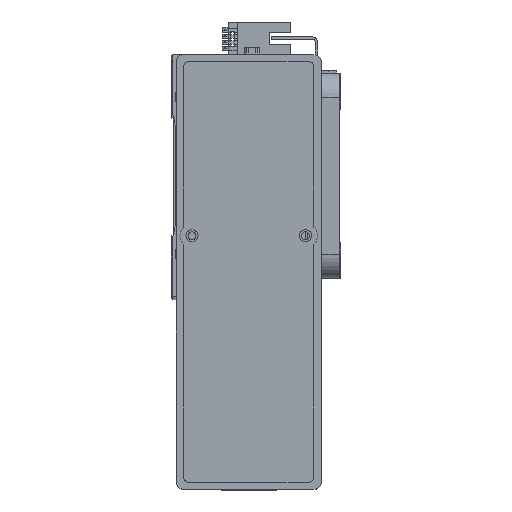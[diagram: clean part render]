
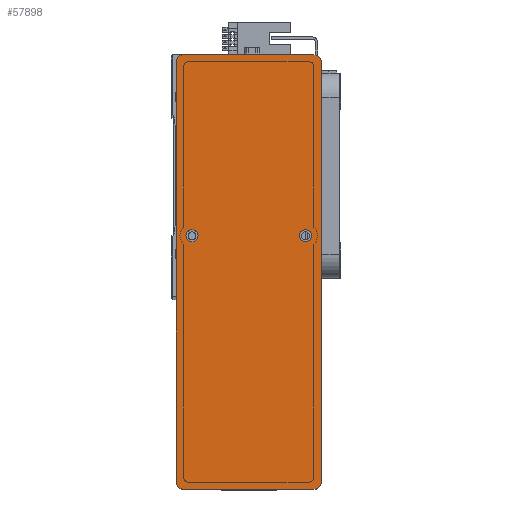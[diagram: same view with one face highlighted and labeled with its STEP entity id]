
A CAD part, top view. The second image highlights one B-rep face of the part: STEP entity #57898.
In plain terms, the highlighted planar face has unit normal (0, 0, 1) as drawn and (0, 0, -1) by its records, which use the part's own axes.
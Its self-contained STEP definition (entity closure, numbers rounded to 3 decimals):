
#386 = EDGE_CURVE ( 'NONE', #36166, #58822, #37524, .T. ) ;
#2072 = CARTESIAN_POINT ( 'NONE',  ( 90., -30., 0. ) ) ;
#2080 = EDGE_CURVE ( 'NONE', #51945, #17599, #48598, .T. ) ;
#2925 = CIRCLE ( 'NONE', #16418, 2.5 ) ;
#2927 = DIRECTION ( 'NONE',  ( 1., 0., 0. ) ) ;
#3391 = CARTESIAN_POINT ( 'NONE',  ( -15., -23.5, 0. ) ) ;
#3736 = CARTESIAN_POINT ( 'NONE',  ( 90., -30., 0. ) ) ;
#3975 = LINE ( 'NONE', #42417, #16021 ) ;
#4728 = CARTESIAN_POINT ( 'NONE',  ( 87., -27., 0. ) ) ;
#5677 = ORIENTED_EDGE ( 'NONE', *, *, #7490, .F. ) ;
#6757 = AXIS2_PLACEMENT_3D ( 'NONE', #51906, #24541, #56484 ) ;
#7490 = EDGE_CURVE ( 'NONE', #51945, #19415, #8653, .T. ) ;
#7973 = DIRECTION ( 'NONE',  ( -1., 0., 0. ) ) ;
#8248 = ORIENTED_EDGE ( 'NONE', *, *, #2080, .T. ) ;
#8653 = LINE ( 'NONE', #3736, #54317 ) ;
#9136 = CARTESIAN_POINT ( 'NONE',  ( -12.5, -23.5, 0. ) ) ;
#9289 = DIRECTION ( 'NONE',  ( 1., 0., 0. ) ) ;
#10115 = EDGE_CURVE ( 'NONE', #33367, #31839, #33692, .T. ) ;
#10507 = ORIENTED_EDGE ( 'NONE', *, *, #25639, .F. ) ;
#10948 = CIRCLE ( 'NONE', #52824, 3. ) ;
#11635 = CARTESIAN_POINT ( 'NONE',  ( 87., 27., 0. ) ) ;
#12711 = CIRCLE ( 'NONE', #48410, 2.5 ) ;
#14330 = CARTESIAN_POINT ( 'NONE',  ( 90., 27., 0. ) ) ;
#16021 = VECTOR ( 'NONE', #51616, 1000. ) ;
#16085 = AXIS2_PLACEMENT_3D ( 'NONE', #17328, #49274, #21897 ) ;
#16218 = DIRECTION ( 'NONE',  ( 1., 0., 0. ) ) ;
#16224 = CIRCLE ( 'NONE', #20098, 3. ) ;
#16418 = AXIS2_PLACEMENT_3D ( 'NONE', #16701, #48659, #21289 ) ;
#16466 = PLANE ( 'NONE',  #23068 ) ;
#16536 = EDGE_CURVE ( 'NONE', #30412, #19415, #16224, .T. ) ;
#16701 = CARTESIAN_POINT ( 'NONE',  ( -15., 23.5, 0. ) ) ;
#17328 = CARTESIAN_POINT ( 'NONE',  ( -87., -27., 0. ) ) ;
#17599 = VERTEX_POINT ( 'NONE', #58796 ) ;
#17751 = ORIENTED_EDGE ( 'NONE', *, *, #38363, .F. ) ;
#18891 = VECTOR ( 'NONE', #49955, 1000. ) ;
#19415 = VERTEX_POINT ( 'NONE', #47981 ) ;
#20098 = AXIS2_PLACEMENT_3D ( 'NONE', #4728, #36571, #9289 ) ;
#20156 = EDGE_LOOP ( 'NONE', ( #10507, #27303 ) ) ;
#20405 = DIRECTION ( 'NONE',  ( 0., 0., -1. ) ) ;
#21042 = CARTESIAN_POINT ( 'NONE',  ( 0., 0., 0. ) ) ;
#21289 = DIRECTION ( 'NONE',  ( -1., 0., 0. ) ) ;
#21645 = EDGE_CURVE ( 'NONE', #30412, #58822, #49898, .T. ) ;
#21897 = DIRECTION ( 'NONE',  ( 1., 0., 0. ) ) ;
#23068 = AXIS2_PLACEMENT_3D ( 'NONE', #21042, #25421, #57545 ) ;
#23153 = CARTESIAN_POINT ( 'NONE',  ( 90., -27., 0. ) ) ;
#24541 = DIRECTION ( 'NONE',  ( 0., 0., -1. ) ) ;
#25087 = CARTESIAN_POINT ( 'NONE',  ( -90., 27., 0. ) ) ;
#25421 = DIRECTION ( 'NONE',  ( 0., 0., 1. ) ) ;
#25639 = EDGE_CURVE ( 'NONE', #31839, #33367, #12711, .T. ) ;
#26437 = CARTESIAN_POINT ( 'NONE',  ( -87., -30., 0. ) ) ;
#26554 = EDGE_CURVE ( 'NONE', #31292, #17599, #28136, .T. ) ;
#27303 = ORIENTED_EDGE ( 'NONE', *, *, #10115, .F. ) ;
#28136 = LINE ( 'NONE', #40731, #18891 ) ;
#29523 = ORIENTED_EDGE ( 'NONE', *, *, #33093, .F. ) ;
#29801 = CARTESIAN_POINT ( 'NONE',  ( -17.5, -23.5, 0. ) ) ;
#30210 = DIRECTION ( 'NONE',  ( 0., 0., -1. ) ) ;
#30412 = VERTEX_POINT ( 'NONE', #23153 ) ;
#31292 = VERTEX_POINT ( 'NONE', #25087 ) ;
#31839 = VERTEX_POINT ( 'NONE', #29801 ) ;
#31956 = CARTESIAN_POINT ( 'NONE',  ( -87., 30., 0. ) ) ;
#33093 = EDGE_CURVE ( 'NONE', #36815, #39515, #2925, .T. ) ;
#33126 = FACE_BOUND ( 'NONE', #20156, .T. ) ;
#33367 = VERTEX_POINT ( 'NONE', #9136 ) ;
#33692 = CIRCLE ( 'NONE', #57240, 2.5 ) ;
#34086 = CARTESIAN_POINT ( 'NONE',  ( -12.5, 23.5, 0. ) ) ;
#34309 = CARTESIAN_POINT ( 'NONE',  ( 87., 30., 0. ) ) ;
#34664 = AXIS2_PLACEMENT_3D ( 'NONE', #11635, #43548, #16218 ) ;
#35114 = EDGE_LOOP ( 'NONE', ( #29523, #48384 ) ) ;
#35162 = DIRECTION ( 'NONE',  ( 1., 0., 0. ) ) ;
#35233 = DIRECTION ( 'NONE',  ( 0., 0., -1. ) ) ;
#36121 = EDGE_LOOP ( 'NONE', ( #49710, #51567, #5677, #8248, #55213, #57017, #17751, #54385 ) ) ;
#36166 = VERTEX_POINT ( 'NONE', #34309 ) ;
#36571 = DIRECTION ( 'NONE',  ( 0., 0., -1. ) ) ;
#36815 = VERTEX_POINT ( 'NONE', #44968 ) ;
#37524 = CIRCLE ( 'NONE', #34664, 3. ) ;
#37678 = VECTOR ( 'NONE', #52142, 1000. ) ;
#38363 = EDGE_CURVE ( 'NONE', #36166, #58132, #3975, .T. ) ;
#39515 = VERTEX_POINT ( 'NONE', #34086 ) ;
#40731 = CARTESIAN_POINT ( 'NONE',  ( -90., -30., 0. ) ) ;
#40758 = EDGE_CURVE ( 'NONE', #31292, #58132, #10948, .T. ) ;
#42153 = CIRCLE ( 'NONE', #6757, 2.5 ) ;
#42417 = CARTESIAN_POINT ( 'NONE',  ( 90., 30., 0. ) ) ;
#43548 = DIRECTION ( 'NONE',  ( 0., 0., -1. ) ) ;
#43590 = EDGE_CURVE ( 'NONE', #39515, #36815, #42153, .T. ) ;
#44968 = CARTESIAN_POINT ( 'NONE',  ( -17.5, 23.5, 0. ) ) ;
#45299 = FACE_BOUND ( 'NONE', #35114, .T. ) ;
#47751 = CARTESIAN_POINT ( 'NONE',  ( -15., -23.5, 0. ) ) ;
#47981 = CARTESIAN_POINT ( 'NONE',  ( 87., -30., 0. ) ) ;
#48384 = ORIENTED_EDGE ( 'NONE', *, *, #43590, .F. ) ;
#48410 = AXIS2_PLACEMENT_3D ( 'NONE', #47751, #20405, #52377 ) ;
#48598 = CIRCLE ( 'NONE', #16085, 3. ) ;
#48659 = DIRECTION ( 'NONE',  ( 0., 0., -1. ) ) ;
#49274 = DIRECTION ( 'NONE',  ( 0., 0., -1. ) ) ;
#49710 = ORIENTED_EDGE ( 'NONE', *, *, #21645, .F. ) ;
#49898 = LINE ( 'NONE', #2072, #37678 ) ;
#49955 = DIRECTION ( 'NONE',  ( 0., -1., 0. ) ) ;
#51567 = ORIENTED_EDGE ( 'NONE', *, *, #16536, .T. ) ;
#51616 = DIRECTION ( 'NONE',  ( -1., 0., 0. ) ) ;
#51906 = CARTESIAN_POINT ( 'NONE',  ( -15., 23.5, 0. ) ) ;
#51945 = VERTEX_POINT ( 'NONE', #26437 ) ;
#52142 = DIRECTION ( 'NONE',  ( 0., 1., 0. ) ) ;
#52377 = DIRECTION ( 'NONE',  ( -1., 0., 0. ) ) ;
#52824 = AXIS2_PLACEMENT_3D ( 'NONE', #57514, #30210, #2927 ) ;
#54317 = VECTOR ( 'NONE', #35162, 1000. ) ;
#54385 = ORIENTED_EDGE ( 'NONE', *, *, #386, .T. ) ;
#55213 = ORIENTED_EDGE ( 'NONE', *, *, #26554, .F. ) ;
#56484 = DIRECTION ( 'NONE',  ( -1., 0., 0. ) ) ;
#57017 = ORIENTED_EDGE ( 'NONE', *, *, #40758, .T. ) ;
#57240 = AXIS2_PLACEMENT_3D ( 'NONE', #3391, #35233, #7973 ) ;
#57464 = FACE_OUTER_BOUND ( 'NONE', #36121, .T. ) ;
#57514 = CARTESIAN_POINT ( 'NONE',  ( -87., 27., 0. ) ) ;
#57545 = DIRECTION ( 'NONE',  ( 1., 0., 0. ) ) ;
#57898 = ADVANCED_FACE ( 'NONE', ( #45299, #33126, #57464 ), #16466, .F. ) ;
#58132 = VERTEX_POINT ( 'NONE', #31956 ) ;
#58796 = CARTESIAN_POINT ( 'NONE',  ( -90., -27., 0. ) ) ;
#58822 = VERTEX_POINT ( 'NONE', #14330 ) ;
